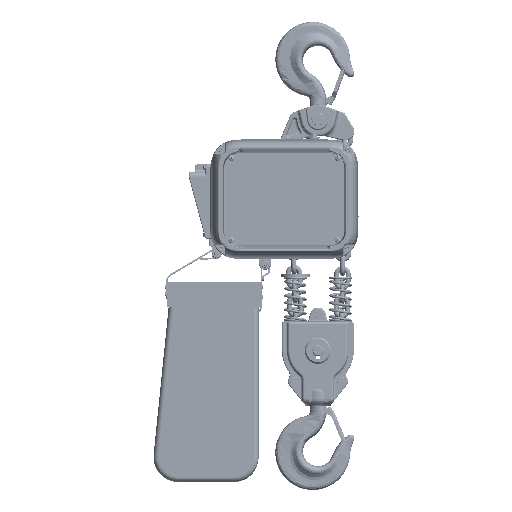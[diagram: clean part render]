
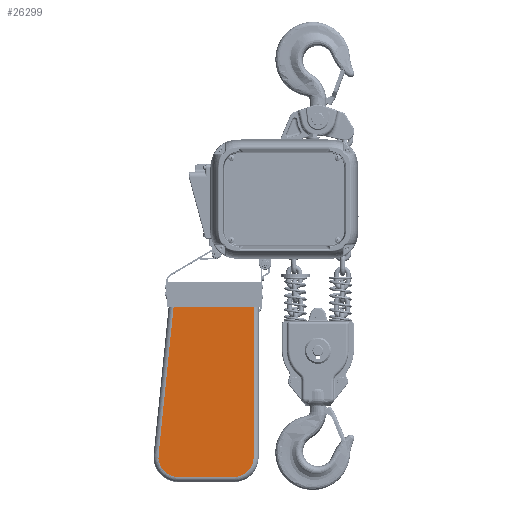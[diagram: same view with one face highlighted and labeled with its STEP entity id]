
A CAD part, top view. The second image highlights one B-rep face of the part: STEP entity #26299.
In plain terms, the highlighted planar face has unit normal (0, 0, 1).
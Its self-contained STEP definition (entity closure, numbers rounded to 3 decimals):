
#4976 = DIRECTION ( 'NONE',  ( 0., 0., 1. ) ) ;
#16212 = LINE ( 'NONE', #160110, #164966 ) ;
#20045 = VERTEX_POINT ( 'NONE', #164453 ) ;
#20352 = CIRCLE ( 'NONE', #101235, 40. ) ;
#21979 = CARTESIAN_POINT ( 'NONE',  ( 90.005, -50.013, 90. ) ) ;
#26299 = ADVANCED_FACE ( 'NONE', ( #41310 ), #187560, .T. ) ;
#28452 = EDGE_CURVE ( 'NONE', #236021, #175475, #20352, .T. ) ;
#31796 = LINE ( 'NONE', #231240, #81799 ) ;
#41310 = FACE_OUTER_BOUND ( 'NONE', #235319, .T. ) ;
#42429 = EDGE_CURVE ( 'NONE', #175475, #50212, #31796, .T. ) ;
#46684 = AXIS2_PLACEMENT_3D ( 'NONE', #179516, #201215, #197618 ) ;
#50212 = VERTEX_POINT ( 'NONE', #181879 ) ;
#50942 = DIRECTION ( 'NONE',  ( -0.101, -0.995, 0. ) ) ;
#57187 = EDGE_CURVE ( 'NONE', #92627, #236021, #16212, .T. ) ;
#61603 = EDGE_CURVE ( 'NONE', #211641, #92627, #170289, .T. ) ;
#69055 = LINE ( 'NONE', #142744, #136678 ) ;
#70345 = VECTOR ( 'NONE', #164548, 1000. ) ;
#71248 = ORIENTED_EDGE ( 'NONE', *, *, #28452, .T. ) ;
#73878 = CARTESIAN_POINT ( 'NONE',  ( 90.005, -50.013, 90. ) ) ;
#81799 = VECTOR ( 'NONE', #161146, 1000. ) ;
#85764 = CARTESIAN_POINT ( 'NONE',  ( 40., -353., 90. ) ) ;
#87845 = EDGE_CURVE ( 'NONE', #20045, #50212, #220085, .T. ) ;
#92627 = VERTEX_POINT ( 'NONE', #92999 ) ;
#92999 = CARTESIAN_POINT ( 'NONE',  ( -72.256, -393., 90. ) ) ;
#101235 = AXIS2_PLACEMENT_3D ( 'NONE', #85764, #237991, #215021 ) ;
#103010 = AXIS2_PLACEMENT_3D ( 'NONE', #21979, #4976, #147720 ) ;
#129689 = ORIENTED_EDGE ( 'NONE', *, *, #61603, .T. ) ;
#136678 = VECTOR ( 'NONE', #50942, 1000. ) ;
#142744 = CARTESIAN_POINT ( 'NONE',  ( -112.051, -348.957, 90. ) ) ;
#143515 = CARTESIAN_POINT ( 'NONE',  ( 40., -393., 90. ) ) ;
#147720 = DIRECTION ( 'NONE',  ( 1., 0., 0. ) ) ;
#157327 = ORIENTED_EDGE ( 'NONE', *, *, #42429, .T. ) ;
#160110 = CARTESIAN_POINT ( 'NONE',  ( 40., -393., 90. ) ) ;
#160352 = ORIENTED_EDGE ( 'NONE', *, *, #207725, .T. ) ;
#161146 = DIRECTION ( 'NONE',  ( 0., 1., 0. ) ) ;
#163055 = ORIENTED_EDGE ( 'NONE', *, *, #57187, .T. ) ;
#164453 = CARTESIAN_POINT ( 'NONE',  ( -81.677, -50.013, 90. ) ) ;
#164548 = DIRECTION ( 'NONE',  ( 1., 0., 0. ) ) ;
#164966 = VECTOR ( 'NONE', #198714, 1000. ) ;
#170289 = CIRCLE ( 'NONE', #46684, 40. ) ;
#175475 = VERTEX_POINT ( 'NONE', #237600 ) ;
#176530 = ORIENTED_EDGE ( 'NONE', *, *, #87845, .F. ) ;
#179516 = CARTESIAN_POINT ( 'NONE',  ( -72.256, -353., 90. ) ) ;
#181879 = CARTESIAN_POINT ( 'NONE',  ( 80., -50.013, 90. ) ) ;
#187560 = PLANE ( 'NONE',  #103010 ) ;
#197618 = DIRECTION ( 'NONE',  ( 1., 0., 0. ) ) ;
#198714 = DIRECTION ( 'NONE',  ( 1., 0., 0. ) ) ;
#201215 = DIRECTION ( 'NONE',  ( 0., 0., 1. ) ) ;
#207725 = EDGE_CURVE ( 'NONE', #20045, #211641, #69055, .T. ) ;
#211641 = VERTEX_POINT ( 'NONE', #219294 ) ;
#215021 = DIRECTION ( 'NONE',  ( 1., 0., 0. ) ) ;
#219294 = CARTESIAN_POINT ( 'NONE',  ( -112.051, -348.957, 90. ) ) ;
#220085 = LINE ( 'NONE', #73878, #70345 ) ;
#231240 = CARTESIAN_POINT ( 'NONE',  ( 80., -50.013, 90. ) ) ;
#235319 = EDGE_LOOP ( 'NONE', ( #71248, #157327, #176530, #160352, #129689, #163055 ) ) ;
#236021 = VERTEX_POINT ( 'NONE', #143515 ) ;
#237600 = CARTESIAN_POINT ( 'NONE',  ( 80., -353., 90. ) ) ;
#237991 = DIRECTION ( 'NONE',  ( 0., 0., 1. ) ) ;
